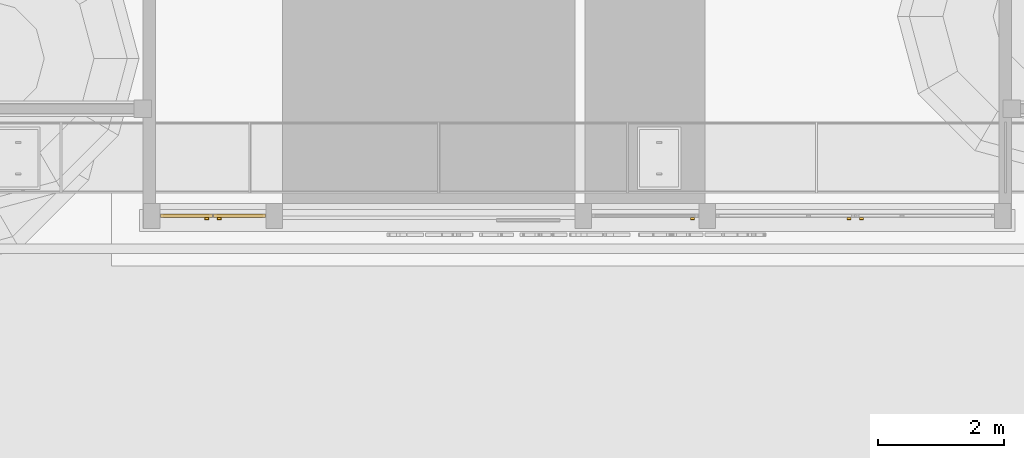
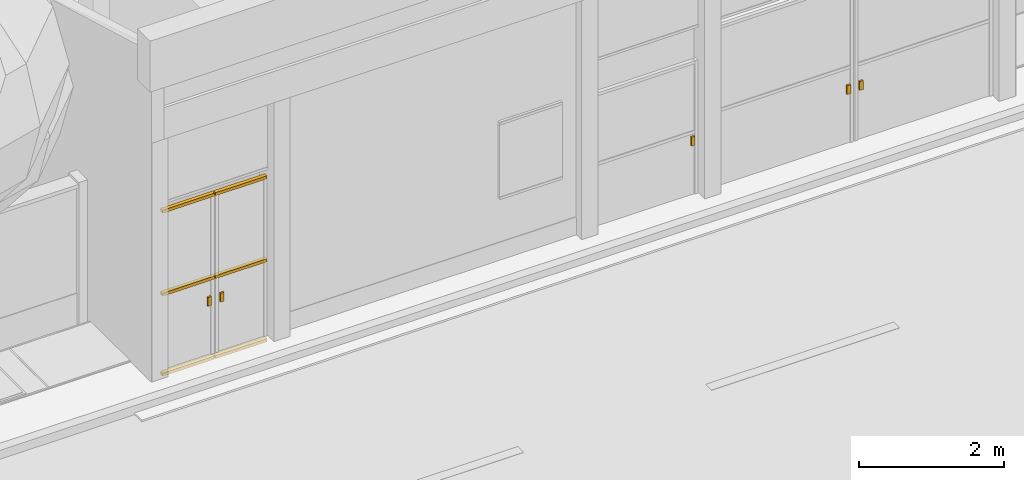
# One storey, part 68 of 166: 11 doors.
"""IFC2X3 building model written with IfcOpenShell, lengths in metres."""

from ifc_helpers import new_model, si_unit, origin, origin_with_axes, place, context, subcontext, project, spatial, faceted_brep, element, save


model = new_model("IFC2X3")

# Units and contexts
model_context = context("Model", 3, precision=1e-05, world=origin_with_axes())
body_context = subcontext(model_context, "Body", "Model", "MODEL_VIEW")
ifc_project = project(units=[si_unit("LENGTHUNIT", "METRE"), si_unit("AREAUNIT", "SQUARE_METRE"), si_unit("VOLUMEUNIT", "CUBIC_METRE"), si_unit("PLANEANGLEUNIT", "RADIAN")], contexts=[model_context])

# Site, building, storey
site_placement = place(None, origin_with_axes())
site = spatial("IfcSite", under=ifc_project, at=site_placement, Name="Predio Los Mangos - Morales, San Martín", CompositionType="ELEMENT")
building_placement = place(site_placement, origin())
building = spatial("IfcBuilding", under=site, at=building_placement, Name="Hogar de Refugio Temporal", CompositionType="ELEMENT")
storey_placement = place(building_placement, origin())
storey = spatial("IfcBuildingStorey", under=building, at=storey_placement, Name="NIVEL 1 (NPT +0.00)", CompositionType="ELEMENT", Elevation=0.0)

# Doors
door_1_placement = place(storey_placement, origin())
element("IfcDoor", 1, at=door_1_placement, inside=storey, Name="oe01_porton_peatonal_m", ObjectType="Puerta / portón", context=body_context, shape_type="Brep", body=[
    faceted_brep([(31.581, 16.27, 0.05), (31.581, 16.33, 0.05), (32.404, 16.33, 0.05), (32.404, 16.27, 0.05), (31.581, 16.27, 0.1), (32.404, 16.27, 0.1), (32.404, 16.33, 0.1), (31.581, 16.33, 0.1)], [[[0, 1, 2, 3]], [[4, 5, 6, 7]], [[0, 3, 5, 4]], [[3, 2, 6, 5]], [[2, 1, 7, 6]], [[1, 0, 4, 7]]]),
])
door_2_placement = place(storey_placement, origin())
element("IfcDoor", 2, at=door_2_placement, inside=storey, Name="oe01_porton_peatonal_m", ObjectType="Puerta / portón", context=body_context, shape_type="Brep", body=[
    faceted_brep([(31.581, 16.27, 2.8), (31.581, 16.33, 2.8), (32.404, 16.33, 2.8), (32.404, 16.27, 2.8), (31.581, 16.27, 2.85), (32.404, 16.27, 2.85), (32.404, 16.33, 2.85), (31.581, 16.33, 2.85)], [[[0, 1, 2, 3]], [[4, 5, 6, 7]], [[0, 3, 5, 4]], [[3, 2, 6, 5]], [[2, 1, 7, 6]], [[1, 0, 4, 7]]]),
])
door_3_placement = place(storey_placement, origin())
element("IfcDoor", 3, at=door_3_placement, inside=storey, Name="oe01_porton_peatonal_m", ObjectType="Puerta / portón", context=body_context, shape_type="Brep", body=[
    faceted_brep([(31.581, 16.27, 1.4), (31.581, 16.33, 1.4), (32.404, 16.33, 1.4), (32.404, 16.27, 1.4), (31.581, 16.27, 1.45), (32.404, 16.27, 1.45), (32.404, 16.33, 1.45), (31.581, 16.33, 1.45)], [[[0, 1, 2, 3]], [[4, 5, 6, 7]], [[0, 3, 5, 4]], [[3, 2, 6, 5]], [[2, 1, 7, 6]], [[1, 0, 4, 7]]]),
])
door_4_placement = place(storey_placement, origin())
element("IfcDoor", 4, at=door_4_placement, inside=storey, Name="oe01_porton_peatonal_manija", ObjectType="Puerta / portón", context=body_context, shape_type="Brep", body=[
    faceted_brep([(32.284, 16.24, 1.0), (32.284, 16.27, 1.0), (32.344, 16.27, 1.0), (32.344, 16.24, 1.0), (32.284, 16.24, 1.15), (32.344, 16.24, 1.15), (32.344, 16.27, 1.15), (32.284, 16.27, 1.15)], [[[0, 1, 2, 3]], [[4, 5, 6, 7]], [[0, 3, 5, 4]], [[3, 2, 6, 5]], [[2, 1, 7, 6]], [[1, 0, 4, 7]]]),
])
door_5_placement = place(storey_placement, origin())
element("IfcDoor", 5, at=door_5_placement, inside=storey, Name="oe01_porton_peatonal_m", ObjectType="Puerta / portón", context=body_context, shape_type="Brep", body=[
    faceted_brep([(32.424, 16.27, 0.05), (32.424, 16.33, 0.05), (33.2471, 16.33, 0.05), (33.2471, 16.27, 0.05), (32.424, 16.27, 0.1), (33.2471, 16.27, 0.1), (33.2471, 16.33, 0.1), (32.424, 16.33, 0.1)], [[[0, 1, 2, 3]], [[4, 5, 6, 7]], [[0, 3, 5, 4]], [[3, 2, 6, 5]], [[2, 1, 7, 6]], [[1, 0, 4, 7]]]),
])
door_6_placement = place(storey_placement, origin())
element("IfcDoor", 6, at=door_6_placement, inside=storey, Name="oe01_porton_peatonal_m", ObjectType="Puerta / portón", context=body_context, shape_type="Brep", body=[
    faceted_brep([(32.424, 16.27, 2.8), (32.424, 16.33, 2.8), (33.2471, 16.33, 2.8), (33.2471, 16.27, 2.8), (32.424, 16.27, 2.85), (33.2471, 16.27, 2.85), (33.2471, 16.33, 2.85), (32.424, 16.33, 2.85)], [[[0, 1, 2, 3]], [[4, 5, 6, 7]], [[0, 3, 5, 4]], [[3, 2, 6, 5]], [[2, 1, 7, 6]], [[1, 0, 4, 7]]]),
])
door_7_placement = place(storey_placement, origin())
element("IfcDoor", 7, at=door_7_placement, inside=storey, Name="oe01_porton_peatonal_m", ObjectType="Puerta / portón", context=body_context, shape_type="Brep", body=[
    faceted_brep([(32.424, 16.27, 1.4), (32.424, 16.33, 1.4), (33.2471, 16.33, 1.4), (33.2471, 16.27, 1.4), (32.424, 16.27, 1.45), (33.2471, 16.27, 1.45), (33.2471, 16.33, 1.45), (32.424, 16.33, 1.45)], [[[0, 1, 2, 3]], [[4, 5, 6, 7]], [[0, 3, 5, 4]], [[3, 2, 6, 5]], [[2, 1, 7, 6]], [[1, 0, 4, 7]]]),
])
door_8_placement = place(storey_placement, origin())
element("IfcDoor", 8, at=door_8_placement, inside=storey, Name="oe01_porton_peatonal_manija", ObjectType="Puerta / portón", context=body_context, shape_type="Brep", body=[
    faceted_brep([(32.484, 16.24, 1.0), (32.484, 16.27, 1.0), (32.544, 16.27, 1.0), (32.544, 16.24, 1.0), (32.484, 16.24, 1.15), (32.544, 16.24, 1.15), (32.544, 16.27, 1.15), (32.484, 16.27, 1.15)], [[[0, 1, 2, 3]], [[4, 5, 6, 7]], [[0, 3, 5, 4]], [[3, 2, 6, 5]], [[2, 1, 7, 6]], [[1, 0, 4, 7]]]),
])
door_9_placement = place(storey_placement, origin())
element("IfcDoor", 9, at=door_9_placement, inside=storey, Name="oe01_puerta_manija", ObjectType="Puerta / portón", context=body_context, shape_type="Brep", body=[
    faceted_brep([(40.002, 16.24, 1.0), (40.002, 16.27, 1.0), (40.062, 16.27, 1.0), (40.062, 16.24, 1.0), (40.002, 16.24, 1.15), (40.062, 16.24, 1.15), (40.062, 16.27, 1.15), (40.002, 16.27, 1.15)], [[[0, 1, 2, 3]], [[4, 5, 6, 7]], [[0, 3, 5, 4]], [[3, 2, 6, 5]], [[2, 1, 7, 6]], [[1, 0, 4, 7]]]),
])
door_10_placement = place(storey_placement, origin())
element("IfcDoor", 10, at=door_10_placement, inside=storey, Name="oe01_porton_vehicular_manija", ObjectType="Puerta / portón", context=body_context, shape_type="Brep", body=[
    faceted_brep([(42.486, 16.24, 1.0), (42.486, 16.27, 1.0), (42.546, 16.27, 1.0), (42.546, 16.24, 1.0), (42.486, 16.24, 1.15), (42.546, 16.24, 1.15), (42.546, 16.27, 1.15), (42.486, 16.27, 1.15)], [[[0, 1, 2, 3]], [[4, 5, 6, 7]], [[0, 3, 5, 4]], [[3, 2, 6, 5]], [[2, 1, 7, 6]], [[1, 0, 4, 7]]]),
])
door_11_placement = place(storey_placement, origin())
element("IfcDoor", 11, at=door_11_placement, inside=storey, Name="oe01_porton_vehicular_manija", ObjectType="Puerta / portón", context=body_context, shape_type="Brep", body=[
    faceted_brep([(42.686, 16.24, 1.0), (42.686, 16.27, 1.0), (42.746, 16.27, 1.0), (42.746, 16.24, 1.0), (42.686, 16.24, 1.15), (42.746, 16.24, 1.15), (42.746, 16.27, 1.15), (42.686, 16.27, 1.15)], [[[0, 1, 2, 3]], [[4, 5, 6, 7]], [[0, 3, 5, 4]], [[3, 2, 6, 5]], [[2, 1, 7, 6]], [[1, 0, 4, 7]]]),
])

save(model, "model.ifc")
